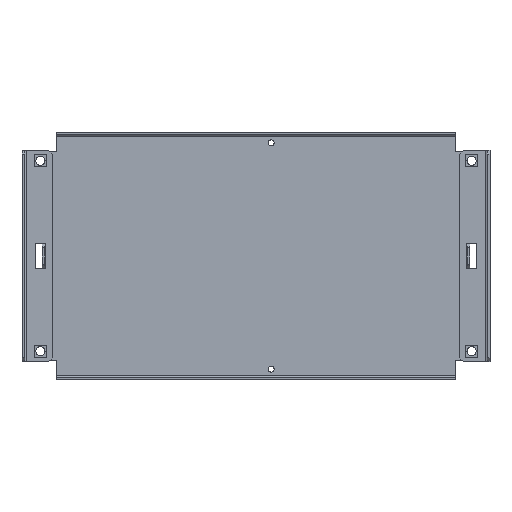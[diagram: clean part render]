
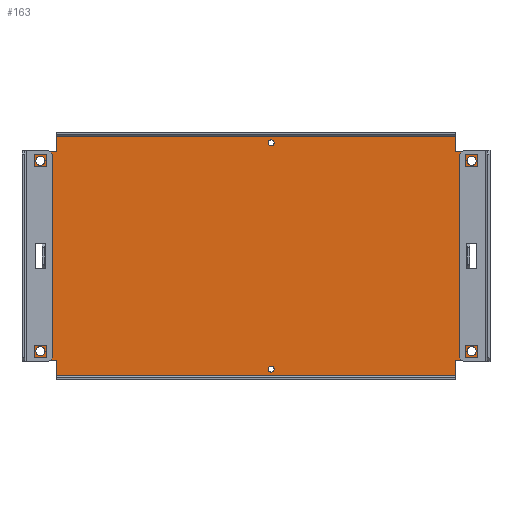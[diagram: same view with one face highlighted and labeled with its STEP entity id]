
A CAD part, top view. The second image highlights one B-rep face of the part: STEP entity #163.
In plain terms, the highlighted planar face has unit normal (0, 0, 1).
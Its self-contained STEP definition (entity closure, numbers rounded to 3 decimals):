
#163=ADVANCED_FACE('',(#1535,#1537,#1539,#1541,#1543,#1545,#1547),#1549,.T.);
#1535=FACE_BOUND('',#1536,.T.);
#1536=EDGE_LOOP('',(#2639,#2640,#2641,#2642,#2643,#2644,#2645,#2646,#2647,#2648,
#2649,#2650,#2651,#2652,#2653,#2654,#2655,#2656,#2657,#2658,#2659,#2660,#2661,#2662,
#2663,#2664,#2665,#2666));
#1537=FACE_BOUND('',#1538,.T.);
#1538=EDGE_LOOP('',(#2667));
#1539=FACE_BOUND('',#1540,.T.);
#1540=EDGE_LOOP('',(#2668));
#1541=FACE_BOUND('',#1542,.T.);
#1542=EDGE_LOOP('',(#2669));
#1543=FACE_BOUND('',#1544,.T.);
#1544=EDGE_LOOP('',(#2670));
#1545=FACE_BOUND('',#1546,.T.);
#1546=EDGE_LOOP('',(#2671));
#1547=FACE_BOUND('',#1548,.T.);
#1548=EDGE_LOOP('',(#2672));
#1549=PLANE('',#1550);
#1550=AXIS2_PLACEMENT_3D('',#1551,#1552,#1553);
#1551=CARTESIAN_POINT('',(0.,0.,0.));
#1552=DIRECTION('',(0.,0.,1.));
#1553=DIRECTION('',(1.,0.,0.));
#2639=ORIENTED_EDGE('',*,*,#3414,.F.);
#2640=ORIENTED_EDGE('',*,*,#3415,.T.);
#2641=ORIENTED_EDGE('',*,*,#3381,.T.);
#2642=ORIENTED_EDGE('',*,*,#3416,.T.);
#2643=ORIENTED_EDGE('',*,*,#3417,.T.);
#2644=ORIENTED_EDGE('',*,*,#3418,.F.);
#2645=ORIENTED_EDGE('',*,*,#3419,.F.);
#2646=ORIENTED_EDGE('',*,*,#3420,.F.);
#2647=ORIENTED_EDGE('',*,*,#3421,.T.);
#2648=ORIENTED_EDGE('',*,*,#3422,.T.);
#2649=ORIENTED_EDGE('',*,*,#3423,.T.);
#2650=ORIENTED_EDGE('',*,*,#3424,.T.);
#2651=ORIENTED_EDGE('',*,*,#3425,.F.);
#2652=ORIENTED_EDGE('',*,*,#3426,.T.);
#2653=ORIENTED_EDGE('',*,*,#3427,.T.);
#2654=ORIENTED_EDGE('',*,*,#3428,.T.);
#2655=ORIENTED_EDGE('',*,*,#3429,.T.);
#2656=ORIENTED_EDGE('',*,*,#3430,.T.);
#2657=ORIENTED_EDGE('',*,*,#3431,.T.);
#2658=ORIENTED_EDGE('',*,*,#3432,.F.);
#2659=ORIENTED_EDGE('',*,*,#3433,.F.);
#2660=ORIENTED_EDGE('',*,*,#3434,.F.);
#2661=ORIENTED_EDGE('',*,*,#3387,.T.);
#2662=ORIENTED_EDGE('',*,*,#3435,.T.);
#2663=ORIENTED_EDGE('',*,*,#3436,.F.);
#2664=ORIENTED_EDGE('',*,*,#3437,.F.);
#2665=ORIENTED_EDGE('',*,*,#3438,.F.);
#2666=ORIENTED_EDGE('',*,*,#3377,.F.);
#2667=ORIENTED_EDGE('',*,*,#3365,.F.);
#2668=ORIENTED_EDGE('',*,*,#3367,.T.);
#2669=ORIENTED_EDGE('',*,*,#3369,.T.);
#2670=ORIENTED_EDGE('',*,*,#3371,.F.);
#2671=ORIENTED_EDGE('',*,*,#3373,.T.);
#2672=ORIENTED_EDGE('',*,*,#3375,.F.);
#3365=EDGE_CURVE('',#3757,#3757,#3758,.T.);
#3367=EDGE_CURVE('',#3761,#3761,#3762,.T.);
#3369=EDGE_CURVE('',#3765,#3765,#3766,.T.);
#3371=EDGE_CURVE('',#3769,#3769,#3770,.T.);
#3373=EDGE_CURVE('',#3773,#3773,#3774,.T.);
#3375=EDGE_CURVE('',#3777,#3777,#3778,.T.);
#3377=EDGE_CURVE('',#3781,#3782,#3783,.T.);
#3381=EDGE_CURVE('',#3789,#3790,#3791,.T.);
#3387=EDGE_CURVE('',#3802,#3800,#3803,.T.);
#3414=EDGE_CURVE('',#3852,#3781,#3853,.T.);
#3415=EDGE_CURVE('',#3852,#3789,#3854,.T.);
#3416=EDGE_CURVE('',#3790,#3855,#3856,.T.);
#3417=EDGE_CURVE('',#3855,#3857,#3858,.T.);
#3418=EDGE_CURVE('',#3859,#3857,#3860,.T.);
#3419=EDGE_CURVE('',#3861,#3859,#3862,.T.);
#3420=EDGE_CURVE('',#3863,#3861,#3864,.T.);
#3421=EDGE_CURVE('',#3863,#3865,#3866,.T.);
#3422=EDGE_CURVE('',#3865,#3867,#3868,.T.);
#3423=EDGE_CURVE('',#3867,#3869,#3870,.T.);
#3424=EDGE_CURVE('',#3869,#3871,#3872,.T.);
#3425=EDGE_CURVE('',#3873,#3871,#3874,.T.);
#3426=EDGE_CURVE('',#3873,#3875,#3876,.T.);
#3427=EDGE_CURVE('',#3875,#3877,#3878,.T.);
#3428=EDGE_CURVE('',#3877,#3879,#3880,.T.);
#3429=EDGE_CURVE('',#3879,#3881,#3882,.T.);
#3430=EDGE_CURVE('',#3881,#3883,#3884,.T.);
#3431=EDGE_CURVE('',#3883,#3885,#3886,.T.);
#3432=EDGE_CURVE('',#3887,#3885,#3888,.T.);
#3433=EDGE_CURVE('',#3889,#3887,#3890,.T.);
#3434=EDGE_CURVE('',#3802,#3889,#3891,.T.);
#3435=EDGE_CURVE('',#3800,#3892,#3893,.T.);
#3436=EDGE_CURVE('',#3894,#3892,#3895,.T.);
#3437=EDGE_CURVE('',#3896,#3894,#3897,.T.);
#3438=EDGE_CURVE('',#3782,#3896,#3898,.T.);
#3757=VERTEX_POINT('',#4401);
#3758=CIRCLE('',#4402,2.3);
#3761=VERTEX_POINT('',#4411);
#3762=CIRCLE('',#4412,2.3);
#3765=VERTEX_POINT('',#4421);
#3766=CIRCLE('',#4422,3.65);
#3769=VERTEX_POINT('',#4431);
#3770=CIRCLE('',#4432,3.65);
#3773=VERTEX_POINT('',#4441);
#3774=CIRCLE('',#4442,3.65);
#3777=VERTEX_POINT('',#4451);
#3778=CIRCLE('',#4452,3.65);
#3781=VERTEX_POINT('',#4461);
#3782=VERTEX_POINT('',#4462);
#3783=LINE('',#4463,#4464);
#3789=VERTEX_POINT('',#4477);
#3790=VERTEX_POINT('',#4478);
#3791=LINE('',#4479,#4480);
#3800=VERTEX_POINT('',#4498);
#3802=VERTEX_POINT('',#4502);
#3803=LINE('',#4503,#4504);
#3852=VERTEX_POINT('',#4606);
#3853=LINE('',#4607,#4608);
#3854=LINE('',#4610,#4611);
#3855=VERTEX_POINT('',#4613);
#3856=LINE('',#4614,#4615);
#3857=VERTEX_POINT('',#4617);
#3858=LINE('',#4618,#4619);
#3859=VERTEX_POINT('',#4621);
#3860=LINE('',#4622,#4623);
#3861=VERTEX_POINT('',#4625);
#3862=LINE('',#4626,#4627);
#3863=VERTEX_POINT('',#4629);
#3864=LINE('',#4630,#4631);
#3865=VERTEX_POINT('',#4633);
#3866=LINE('',#4634,#4635);
#3867=VERTEX_POINT('',#4637);
#3868=LINE('',#4638,#4639);
#3869=VERTEX_POINT('',#4641);
#3870=LINE('',#4642,#4643);
#3871=VERTEX_POINT('',#4645);
#3872=LINE('',#4646,#4647);
#3873=VERTEX_POINT('',#4649);
#3874=LINE('',#4650,#4651);
#3875=VERTEX_POINT('',#4653);
#3876=LINE('',#4654,#4655);
#3877=VERTEX_POINT('',#4657);
#3878=LINE('',#4658,#4659);
#3879=VERTEX_POINT('',#4661);
#3880=LINE('',#4662,#4663);
#3881=VERTEX_POINT('',#4665);
#3882=LINE('',#4666,#4667);
#3883=VERTEX_POINT('',#4669);
#3884=LINE('',#4670,#4671);
#3885=VERTEX_POINT('',#4673);
#3886=LINE('',#4674,#4675);
#3887=VERTEX_POINT('',#4677);
#3888=LINE('',#4678,#4679);
#3889=VERTEX_POINT('',#4681);
#3890=LINE('',#4682,#4683);
#3891=LINE('',#4685,#4686);
#3892=VERTEX_POINT('',#4688);
#3893=LINE('',#4689,#4690);
#3894=VERTEX_POINT('',#4692);
#3895=LINE('',#4693,#4694);
#3896=VERTEX_POINT('',#4696);
#3897=LINE('',#4697,#4698);
#3898=LINE('',#4700,#4701);
#4401=CARTESIAN_POINT('',(9.7,89.3,0.));
#4402=AXIS2_PLACEMENT_3D('',#4403,#4404,#4405);
#4403=CARTESIAN_POINT('',(12.,89.3,0.));
#4404=DIRECTION('',(0.,0.,1.));
#4405=DIRECTION('',(-1.,0.,0.));
#4411=CARTESIAN_POINT('',(9.7,-89.3,0.));
#4412=AXIS2_PLACEMENT_3D('',#4413,#4414,#4415);
#4413=CARTESIAN_POINT('',(12.,-89.3,0.));
#4414=DIRECTION('',(0.,0.,-1.));
#4415=DIRECTION('',(1.,0.,0.));
#4421=CARTESIAN_POINT('',(166.45,75.,0.));
#4422=AXIS2_PLACEMENT_3D('',#4423,#4424,#4425);
#4423=CARTESIAN_POINT('',(170.1,75.,0.));
#4424=DIRECTION('',(0.,0.,-1.));
#4425=DIRECTION('',(1.,0.,0.));
#4431=CARTESIAN_POINT('',(166.45,-75.,0.));
#4432=AXIS2_PLACEMENT_3D('',#4433,#4434,#4435);
#4433=CARTESIAN_POINT('',(170.1,-75.,0.));
#4434=DIRECTION('',(0.,0.,1.));
#4435=DIRECTION('',(-1.,0.,0.));
#4441=CARTESIAN_POINT('',(-173.75,-75.,0.));
#4442=AXIS2_PLACEMENT_3D('',#4443,#4444,#4445);
#4443=CARTESIAN_POINT('',(-170.1,-75.,0.));
#4444=DIRECTION('',(0.,0.,-1.));
#4445=DIRECTION('',(1.,0.,0.));
#4451=CARTESIAN_POINT('',(-173.75,75.,0.));
#4452=AXIS2_PLACEMENT_3D('',#4453,#4454,#4455);
#4453=CARTESIAN_POINT('',(-170.1,75.,0.));
#4454=DIRECTION('',(0.,0.,1.));
#4455=DIRECTION('',(-1.,0.,0.));
#4461=CARTESIAN_POINT('',(165.2,16.,0.));
#4462=CARTESIAN_POINT('',(165.2,7.5,0.));
#4463=CARTESIAN_POINT('',(165.2,16.,0.));
#4464=VECTOR('',#4465,1.);
#4465=DIRECTION('',(0.,-1.,0.));
#4477=CARTESIAN_POINT('',(177.6,23.07,0.));
#4478=CARTESIAN_POINT('',(177.6,82.25,0.));
#4479=CARTESIAN_POINT('',(177.6,23.07,0.));
#4480=VECTOR('',#4481,1.);
#4481=DIRECTION('',(0.,1.,0.));
#4498=CARTESIAN_POINT('',(177.6,-23.07,0.));
#4502=CARTESIAN_POINT('',(177.6,-82.25,0.));
#4503=CARTESIAN_POINT('',(177.6,-82.25,0.));
#4504=VECTOR('',#4505,1.);
#4505=DIRECTION('',(0.,1.,0.));
#4606=CARTESIAN_POINT('',(170.53,16.,0.));
#4607=CARTESIAN_POINT('',(170.53,16.,0.));
#4608=VECTOR('',#4609,1.);
#4609=DIRECTION('',(-1.,0.,0.));
#4610=CARTESIAN_POINT('',(170.53,16.,0.));
#4611=VECTOR('',#4612,1.);
#4612=DIRECTION('',(0.707,0.707,0.));
#4613=CARTESIAN_POINT('',(157.6,82.25,0.));
#4614=CARTESIAN_POINT('',(177.6,82.25,0.));
#4615=VECTOR('',#4616,1.);
#4616=DIRECTION('',(-1.,0.,0.));
#4617=CARTESIAN_POINT('',(157.6,94.1,0.));
#4618=CARTESIAN_POINT('',(157.6,82.25,0.));
#4619=VECTOR('',#4620,1.);
#4620=DIRECTION('',(0.,1.,0.));
#4621=CARTESIAN_POINT('',(-157.6,94.1,0.));
#4622=CARTESIAN_POINT('',(-157.6,94.1,0.));
#4623=VECTOR('',#4624,1.);
#4624=DIRECTION('',(1.,0.,0.));
#4625=CARTESIAN_POINT('',(-157.6,82.25,0.));
#4626=CARTESIAN_POINT('',(-157.6,82.25,0.));
#4627=VECTOR('',#4628,1.);
#4628=DIRECTION('',(0.,1.,0.));
#4629=CARTESIAN_POINT('',(-177.6,82.25,0.));
#4630=CARTESIAN_POINT('',(-177.6,82.25,0.));
#4631=VECTOR('',#4632,1.);
#4632=DIRECTION('',(1.,0.,0.));
#4633=CARTESIAN_POINT('',(-177.6,23.07,0.));
#4634=CARTESIAN_POINT('',(-177.6,82.25,0.));
#4635=VECTOR('',#4636,1.);
#4636=DIRECTION('',(0.,-1.,0.));
#4637=CARTESIAN_POINT('',(-170.53,16.,0.));
#4638=CARTESIAN_POINT('',(-177.6,23.07,0.));
#4639=VECTOR('',#4640,1.);
#4640=DIRECTION('',(0.707,-0.707,0.));
#4641=CARTESIAN_POINT('',(-165.2,16.,0.));
#4642=CARTESIAN_POINT('',(-170.53,16.,0.));
#4643=VECTOR('',#4644,1.);
#4644=DIRECTION('',(1.,0.,0.));
#4645=CARTESIAN_POINT('',(-165.2,7.5,0.));
#4646=CARTESIAN_POINT('',(-165.2,16.,0.));
#4647=VECTOR('',#4648,1.);
#4648=DIRECTION('',(0.,-1.,0.));
#4649=CARTESIAN_POINT('',(-165.2,-7.5,0.));
#4650=CARTESIAN_POINT('',(-165.2,-7.5,0.));
#4651=VECTOR('',#4652,1.);
#4652=DIRECTION('',(0.,1.,0.));
#4653=CARTESIAN_POINT('',(-165.2,-16.,0.));
#4654=CARTESIAN_POINT('',(-165.2,-7.5,0.));
#4655=VECTOR('',#4656,1.);
#4656=DIRECTION('',(0.,-1.,0.));
#4657=CARTESIAN_POINT('',(-170.53,-16.,0.));
#4658=CARTESIAN_POINT('',(-165.2,-16.,0.));
#4659=VECTOR('',#4660,1.);
#4660=DIRECTION('',(-1.,0.,0.));
#4661=CARTESIAN_POINT('',(-177.6,-23.07,0.));
#4662=CARTESIAN_POINT('',(-170.53,-16.,0.));
#4663=VECTOR('',#4664,1.);
#4664=DIRECTION('',(-0.707,-0.707,0.));
#4665=CARTESIAN_POINT('',(-177.6,-82.25,0.));
#4666=CARTESIAN_POINT('',(-177.6,-23.07,0.));
#4667=VECTOR('',#4668,1.);
#4668=DIRECTION('',(0.,-1.,0.));
#4669=CARTESIAN_POINT('',(-157.6,-82.25,0.));
#4670=CARTESIAN_POINT('',(-177.6,-82.25,0.));
#4671=VECTOR('',#4672,1.);
#4672=DIRECTION('',(1.,0.,0.));
#4673=CARTESIAN_POINT('',(-157.6,-94.1,0.));
#4674=CARTESIAN_POINT('',(-157.6,-82.25,0.));
#4675=VECTOR('',#4676,1.);
#4676=DIRECTION('',(0.,-1.,0.));
#4677=CARTESIAN_POINT('',(157.6,-94.1,0.));
#4678=CARTESIAN_POINT('',(157.6,-94.1,0.));
#4679=VECTOR('',#4680,1.);
#4680=DIRECTION('',(-1.,0.,0.));
#4681=CARTESIAN_POINT('',(157.6,-82.25,0.));
#4682=CARTESIAN_POINT('',(157.6,-82.25,0.));
#4683=VECTOR('',#4684,1.);
#4684=DIRECTION('',(0.,-1.,0.));
#4685=CARTESIAN_POINT('',(177.6,-82.25,0.));
#4686=VECTOR('',#4687,1.);
#4687=DIRECTION('',(-1.,0.,0.));
#4688=CARTESIAN_POINT('',(170.53,-16.,0.));
#4689=CARTESIAN_POINT('',(177.6,-23.07,0.));
#4690=VECTOR('',#4691,1.);
#4691=DIRECTION('',(-0.707,0.707,0.));
#4692=CARTESIAN_POINT('',(165.2,-16.,0.));
#4693=CARTESIAN_POINT('',(165.2,-16.,0.));
#4694=VECTOR('',#4695,1.);
#4695=DIRECTION('',(1.,0.,0.));
#4696=CARTESIAN_POINT('',(165.2,-7.5,0.));
#4697=CARTESIAN_POINT('',(165.2,-7.5,0.));
#4698=VECTOR('',#4699,1.);
#4699=DIRECTION('',(0.,-1.,0.));
#4700=CARTESIAN_POINT('',(165.2,7.5,0.));
#4701=VECTOR('',#4702,1.);
#4702=DIRECTION('',(0.,-1.,0.));
